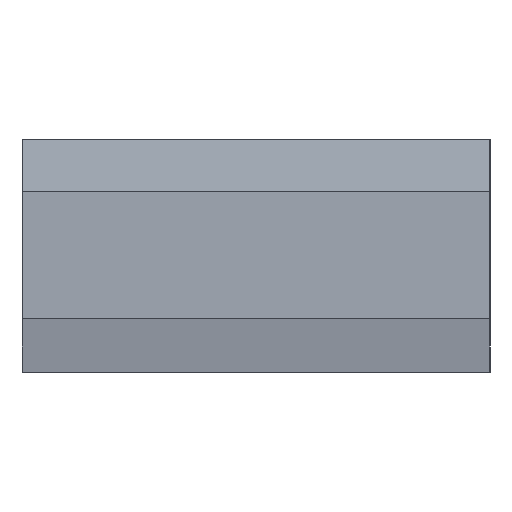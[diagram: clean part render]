
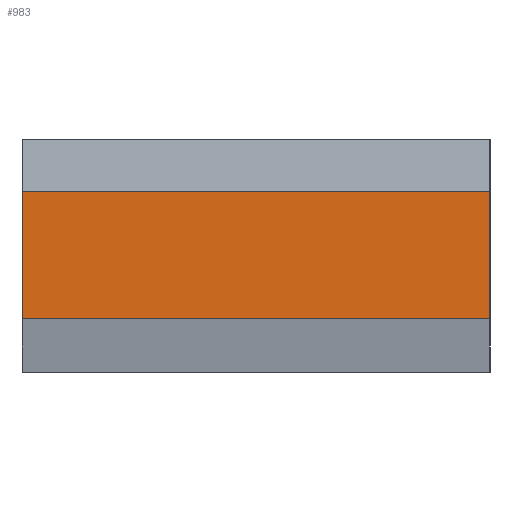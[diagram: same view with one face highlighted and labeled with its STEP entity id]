
A CAD part, left-side view. The second image highlights one B-rep face of the part: STEP entity #983.
In plain terms, the highlighted free-form (B-spline) face has degree [1, 1] with [2, 2] control points.
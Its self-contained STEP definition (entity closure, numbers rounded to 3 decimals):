
#151 = B_SPLINE_SURFACE_WITH_KNOTS('',1,1,(
    (#152,#153)
    ,(#154,#155
    )),.UNSPECIFIED.,.F.,.F.,.F.,(2,2),(2,2),(0.,0.381),(0.,0.381),
  .PIECEWISE_BEZIER_KNOTS.);
#152 = CARTESIAN_POINT('',(-0.777,0.389,0.));
#153 = CARTESIAN_POINT('',(-0.389,0.389,0.));
#154 = CARTESIAN_POINT('',(-0.777,0.389,0.389));
#155 = CARTESIAN_POINT('',(-0.389,0.389,0.389));
#324 = B_SPLINE_SURFACE_WITH_KNOTS('',1,1,(
    (#325,#326)
    ,(#327,#328
    )),.UNSPECIFIED.,.F.,.F.,.F.,(2,2),(2,2),(0.,0.381),(0.,0.381),
  .PIECEWISE_BEZIER_KNOTS.);
#325 = CARTESIAN_POINT('',(-0.777,-0.389,0.));
#326 = CARTESIAN_POINT('',(-0.389,-0.389,0.));
#327 = CARTESIAN_POINT('',(-0.777,-0.389,0.389));
#328 = CARTESIAN_POINT('',(-0.389,-0.389,0.389));
#391 = B_SPLINE_SURFACE_WITH_KNOTS('',1,1,(
    (#392,#393)
    ,(#394,#395
    )),.UNSPECIFIED.,.F.,.F.,.F.,(2,2),(2,2),(0.,0.096),(
    -0.762,0.),.PIECEWISE_BEZIER_KNOTS.);
#392 = CARTESIAN_POINT('',(-0.779,-0.392,0.098)
  );
#393 = CARTESIAN_POINT('',(-0.779,0.392,0.098));
#394 = CARTESIAN_POINT('',(-0.76,-0.392,0.001)
  );
#395 = CARTESIAN_POINT('',(-0.76,0.392,0.001));
#429 = VERTEX_POINT('',#430);
#430 = CARTESIAN_POINT('',(-0.777,0.389,0.09));
#448 = EDGE_CURVE('',#429,#449,#451,.T.);
#449 = VERTEX_POINT('',#450);
#450 = CARTESIAN_POINT('',(-0.777,0.389,0.302));
#451 = SURFACE_CURVE('',#452,(#455,#461),.PCURVE_S1.);
#452 = B_SPLINE_CURVE_WITH_KNOTS('',1,(#453,#454),.UNSPECIFIED.,.F.,.F.,
  (2,2),(0.,0.381),.PIECEWISE_BEZIER_KNOTS.);
#453 = CARTESIAN_POINT('',(-0.777,0.389,0.));
#454 = CARTESIAN_POINT('',(-0.777,0.389,0.389));
#455 = PCURVE('',#151,#456);
#456 = DEFINITIONAL_REPRESENTATION('',(#457),#460);
#457 = B_SPLINE_CURVE_WITH_KNOTS('',1,(#458,#459),.UNSPECIFIED.,.F.,.F.,
  (2,2),(0.,0.381),.PIECEWISE_BEZIER_KNOTS.);
#458 = CARTESIAN_POINT('',(0.,0.));
#459 = CARTESIAN_POINT('',(0.381,0.));
#460 = ( GEOMETRIC_REPRESENTATION_CONTEXT(2) 
PARAMETRIC_REPRESENTATION_CONTEXT() REPRESENTATION_CONTEXT('2D SPACE',''
  ) );
#461 = PCURVE('',#462,#467);
#462 = B_SPLINE_SURFACE_WITH_KNOTS('',1,1,(
    (#463,#464)
    ,(#465,#466
    )),.UNSPECIFIED.,.F.,.F.,.F.,(2,2),(2,2),(0.,0.381),(-0.762,0.),
  .PIECEWISE_BEZIER_KNOTS.);
#463 = CARTESIAN_POINT('',(-0.777,0.389,0.));
#464 = CARTESIAN_POINT('',(-0.777,-0.389,0.));
#465 = CARTESIAN_POINT('',(-0.777,0.389,0.389));
#466 = CARTESIAN_POINT('',(-0.777,-0.389,0.389));
#467 = DEFINITIONAL_REPRESENTATION('',(#468),#471);
#468 = B_SPLINE_CURVE_WITH_KNOTS('',1,(#469,#470),.UNSPECIFIED.,.F.,.F.,
  (2,2),(0.,0.381),.PIECEWISE_BEZIER_KNOTS.);
#469 = CARTESIAN_POINT('',(0.,-0.762));
#470 = CARTESIAN_POINT('',(0.381,-0.762));
#471 = ( GEOMETRIC_REPRESENTATION_CONTEXT(2) 
PARAMETRIC_REPRESENTATION_CONTEXT() REPRESENTATION_CONTEXT('2D SPACE',''
  ) );
#487 = B_SPLINE_SURFACE_WITH_KNOTS('',1,1,(
    (#488,#489)
    ,(#490,#491
    )),.UNSPECIFIED.,.F.,.F.,.F.,(2,2),(2,2),(0.,0.096),(
    -0.762,0.),.PIECEWISE_BEZIER_KNOTS.);
#488 = CARTESIAN_POINT('',(-0.76,-0.392,0.391));
#489 = CARTESIAN_POINT('',(-0.76,0.392,0.391));
#490 = CARTESIAN_POINT('',(-0.779,-0.392,0.295));
#491 = CARTESIAN_POINT('',(-0.779,0.392,0.295));
#834 = VERTEX_POINT('',#835);
#835 = CARTESIAN_POINT('',(-0.777,-0.389,0.09));
#853 = EDGE_CURVE('',#834,#854,#856,.T.);
#854 = VERTEX_POINT('',#855);
#855 = CARTESIAN_POINT('',(-0.777,-0.389,0.302));
#856 = SURFACE_CURVE('',#857,(#860,#866),.PCURVE_S1.);
#857 = B_SPLINE_CURVE_WITH_KNOTS('',1,(#858,#859),.UNSPECIFIED.,.F.,.F.,
  (2,2),(0.,0.381),.PIECEWISE_BEZIER_KNOTS.);
#858 = CARTESIAN_POINT('',(-0.777,-0.389,0.));
#859 = CARTESIAN_POINT('',(-0.777,-0.389,0.389));
#860 = PCURVE('',#324,#861);
#861 = DEFINITIONAL_REPRESENTATION('',(#862),#865);
#862 = B_SPLINE_CURVE_WITH_KNOTS('',1,(#863,#864),.UNSPECIFIED.,.F.,.F.,
  (2,2),(0.,0.381),.PIECEWISE_BEZIER_KNOTS.);
#863 = CARTESIAN_POINT('',(0.,0.));
#864 = CARTESIAN_POINT('',(0.381,0.));
#865 = ( GEOMETRIC_REPRESENTATION_CONTEXT(2) 
PARAMETRIC_REPRESENTATION_CONTEXT() REPRESENTATION_CONTEXT('2D SPACE',''
  ) );
#866 = PCURVE('',#462,#867);
#867 = DEFINITIONAL_REPRESENTATION('',(#868),#871);
#868 = B_SPLINE_CURVE_WITH_KNOTS('',1,(#869,#870),.UNSPECIFIED.,.F.,.F.,
  (2,2),(0.,0.381),.PIECEWISE_BEZIER_KNOTS.);
#869 = CARTESIAN_POINT('',(0.,0.));
#870 = CARTESIAN_POINT('',(0.381,0.));
#871 = ( GEOMETRIC_REPRESENTATION_CONTEXT(2) 
PARAMETRIC_REPRESENTATION_CONTEXT() REPRESENTATION_CONTEXT('2D SPACE',''
  ) );
#917 = EDGE_CURVE('',#834,#429,#918,.T.);
#918 = SURFACE_CURVE('',#919,(#922,#928),.PCURVE_S1.);
#919 = B_SPLINE_CURVE_WITH_KNOTS('',1,(#920,#921),.UNSPECIFIED.,.F.,.F.,
  (2,2),(0.,1.),.PIECEWISE_BEZIER_KNOTS.);
#920 = CARTESIAN_POINT('',(-0.777,-0.389,0.09));
#921 = CARTESIAN_POINT('',(-0.777,0.389,0.09));
#922 = PCURVE('',#391,#923);
#923 = DEFINITIONAL_REPRESENTATION('',(#924),#927);
#924 = B_SPLINE_CURVE_WITH_KNOTS('',1,(#925,#926),.UNSPECIFIED.,.F.,.F.,
  (2,2),(0.,1.),.PIECEWISE_BEZIER_KNOTS.);
#925 = CARTESIAN_POINT('',(0.007,-0.758));
#926 = CARTESIAN_POINT('',(0.007,-0.004));
#927 = ( GEOMETRIC_REPRESENTATION_CONTEXT(2) 
PARAMETRIC_REPRESENTATION_CONTEXT() REPRESENTATION_CONTEXT('2D SPACE',''
  ) );
#928 = PCURVE('',#462,#929);
#929 = DEFINITIONAL_REPRESENTATION('',(#930),#933);
#930 = B_SPLINE_CURVE_WITH_KNOTS('',1,(#931,#932),.UNSPECIFIED.,.F.,.F.,
  (2,2),(0.,1.),.PIECEWISE_BEZIER_KNOTS.);
#931 = CARTESIAN_POINT('',(0.089,0.));
#932 = CARTESIAN_POINT('',(0.089,-0.762));
#933 = ( GEOMETRIC_REPRESENTATION_CONTEXT(2) 
PARAMETRIC_REPRESENTATION_CONTEXT() REPRESENTATION_CONTEXT('2D SPACE',''
  ) );
#963 = EDGE_CURVE('',#449,#854,#964,.T.);
#964 = SURFACE_CURVE('',#965,(#968,#974),.PCURVE_S1.);
#965 = B_SPLINE_CURVE_WITH_KNOTS('',1,(#966,#967),.UNSPECIFIED.,.F.,.F.,
  (2,2),(0.,1.),.PIECEWISE_BEZIER_KNOTS.);
#966 = CARTESIAN_POINT('',(-0.777,0.389,0.302));
#967 = CARTESIAN_POINT('',(-0.777,-0.389,0.302));
#968 = PCURVE('',#487,#969);
#969 = DEFINITIONAL_REPRESENTATION('',(#970),#973);
#970 = B_SPLINE_CURVE_WITH_KNOTS('',1,(#971,#972),.UNSPECIFIED.,.F.,.F.,
  (2,2),(0.,1.),.PIECEWISE_BEZIER_KNOTS.);
#971 = CARTESIAN_POINT('',(0.088,-0.004));
#972 = CARTESIAN_POINT('',(0.088,-0.758));
#973 = ( GEOMETRIC_REPRESENTATION_CONTEXT(2) 
PARAMETRIC_REPRESENTATION_CONTEXT() REPRESENTATION_CONTEXT('2D SPACE',''
  ) );
#974 = PCURVE('',#462,#975);
#975 = DEFINITIONAL_REPRESENTATION('',(#976),#979);
#976 = B_SPLINE_CURVE_WITH_KNOTS('',1,(#977,#978),.UNSPECIFIED.,.F.,.F.,
  (2,2),(0.,1.),.PIECEWISE_BEZIER_KNOTS.);
#977 = CARTESIAN_POINT('',(0.296,-0.762));
#978 = CARTESIAN_POINT('',(0.296,0.));
#979 = ( GEOMETRIC_REPRESENTATION_CONTEXT(2) 
PARAMETRIC_REPRESENTATION_CONTEXT() REPRESENTATION_CONTEXT('2D SPACE',''
  ) );
#983 = ADVANCED_FACE('',(#984),#462,.F.);
#984 = FACE_BOUND('',#985,.F.);
#985 = EDGE_LOOP('',(#986,#987,#988,#989));
#986 = ORIENTED_EDGE('',*,*,#853,.F.);
#987 = ORIENTED_EDGE('',*,*,#917,.T.);
#988 = ORIENTED_EDGE('',*,*,#448,.T.);
#989 = ORIENTED_EDGE('',*,*,#963,.T.);
